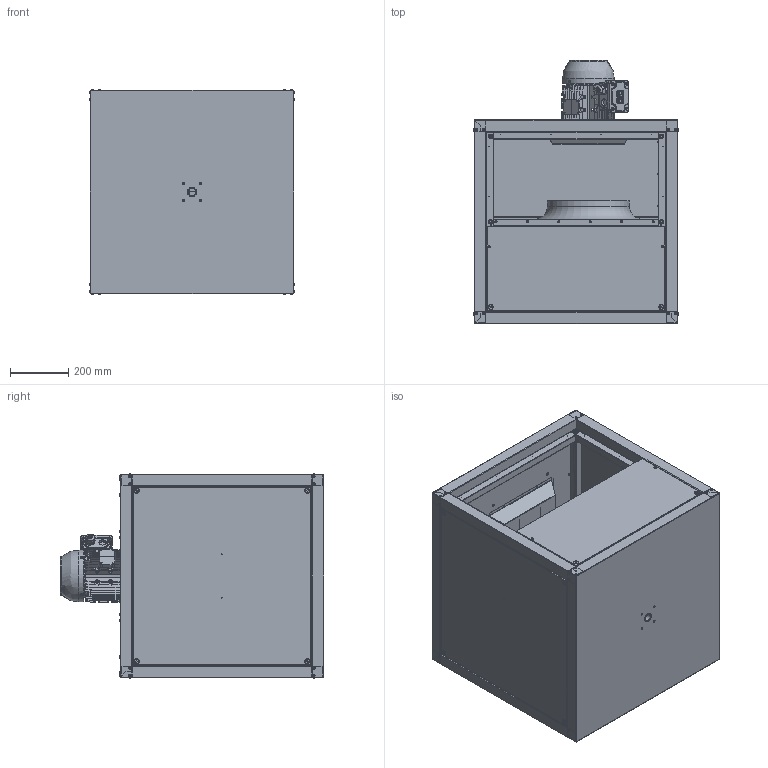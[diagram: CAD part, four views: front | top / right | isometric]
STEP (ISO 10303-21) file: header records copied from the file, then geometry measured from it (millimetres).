
FILE_DESCRIPTION (( 'STEP AP203' ), '1' );
FILE_NAME ('146696-00_MPC450D4F4TI30_step.step', '2018-10-09T10:09:20', ( '' ), ( '' ), 'SwSTEP 2.0', 'SolidWorks 2017', '' );
FILE_SCHEMA (( 'CONFIG_CONTROL_DESIGN' ));
Products named in the file (1): 146696-00_MPC450D4F4TI30_step
Bounding box: 702.6 x 906.1 x 702.6 mm (x, y, z)
Surface area: 6776931.4 mm2 (no closed solid volume)
Topology: 0 solids, 335 shells, 1924 faces, 8583 edges, 6741 vertices
Faces by surface type: plane 1013, cylinder 494, torus 276, bspline 88, cone 53
Entity records: 113319 total; most frequent: CARTESIAN_POINT 45278, DIRECTION 14248, ORIENTED_EDGE 11240, EDGE_CURVE 8575, VERTEX_POINT 6741, VECTOR 4798, LINE 4798, AXIS2_PLACEMENT_3D 4725
